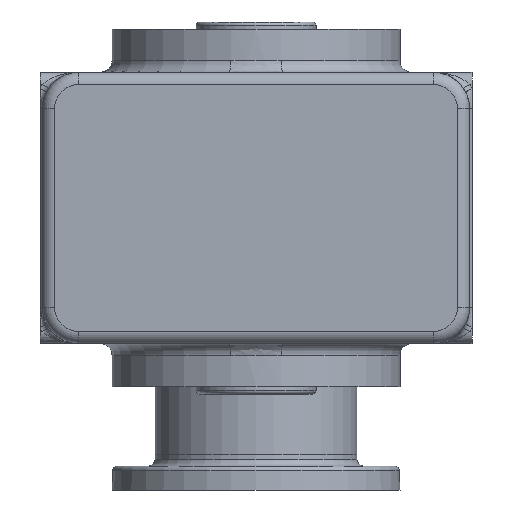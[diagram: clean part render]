
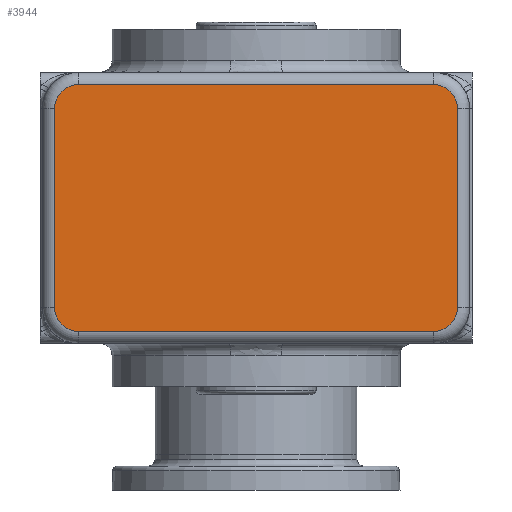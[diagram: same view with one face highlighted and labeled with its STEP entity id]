
A CAD part, front view. The second image highlights one B-rep face of the part: STEP entity #3944.
In plain terms, the highlighted planar face has unit normal (0, -1, 0).
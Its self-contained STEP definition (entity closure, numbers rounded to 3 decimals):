
#3932 = VERTEX_POINT ( 'NONE', #15787 ) ;
#3933 = ORIENTED_EDGE ( 'NONE', *, *, #4009, .T. ) ;
#3934 = VERTEX_POINT ( 'NONE', #15786 ) ;
#3935 = EDGE_CURVE ( 'NONE', #3939, #3937, #15785, .T. ) ;
#3936 = ORIENTED_EDGE ( 'NONE', *, *, #3935, .T. ) ;
#3937 = VERTEX_POINT ( 'NONE', #15781 ) ;
#3938 = ORIENTED_EDGE ( 'NONE', *, *, #3941, .T. ) ;
#3939 = VERTEX_POINT ( 'NONE', #15780 ) ;
#3940 = VERTEX_POINT ( 'NONE', #15779 ) ;
#3941 = EDGE_CURVE ( 'NONE', #3940, #3932, #15778, .T. ) ;
#3944 = ADVANCED_FACE ( 'NONE', ( #15773 ), #15772, .T. ) ;
#3945 = EDGE_LOOP ( 'NONE', ( #3938, #4010, #3936, #3933, #4006, #4004, #4003, #3997 ) ) ;
#3987 = EDGE_CURVE ( 'NONE', #3992, #3940, #15841, .T. ) ;
#3990 = EDGE_CURVE ( 'NONE', #4002, #3992, #15904, .T. ) ;
#3992 = VERTEX_POINT ( 'NONE', #15895 ) ;
#3997 = ORIENTED_EDGE ( 'NONE', *, *, #3987, .T. ) ;
#4002 = VERTEX_POINT ( 'NONE', #15875 ) ;
#4003 = ORIENTED_EDGE ( 'NONE', *, *, #3990, .T. ) ;
#4004 = ORIENTED_EDGE ( 'NONE', *, *, #4005, .T. ) ;
#4005 = EDGE_CURVE ( 'NONE', #4008, #4002, #15872, .T. ) ;
#4006 = ORIENTED_EDGE ( 'NONE', *, *, #4007, .T. ) ;
#4007 = EDGE_CURVE ( 'NONE', #3934, #4008, #15940, .T. ) ;
#4008 = VERTEX_POINT ( 'NONE', #15936 ) ;
#4009 = EDGE_CURVE ( 'NONE', #3937, #3934, #15935, .T. ) ;
#4010 = ORIENTED_EDGE ( 'NONE', *, *, #4011, .T. ) ;
#4011 = EDGE_CURVE ( 'NONE', #3932, #3939, #15930, .T. ) ;
#15615 = CARTESIAN_POINT ( 'NONE',  ( -74., -80., 15. ) ) ;
#15767 = DIRECTION ( 'NONE',  ( 0., 0., -1. ) ) ;
#15769 = DIRECTION ( 'NONE',  ( 0., -1., 0. ) ) ;
#15770 = CARTESIAN_POINT ( 'NONE',  ( -74., -80., 15. ) ) ;
#15771 = AXIS2_PLACEMENT_3D ( 'NONE', #15770, #15769, #15767 ) ;
#15772 = PLANE ( 'NONE',  #15771 ) ;
#15773 = FACE_OUTER_BOUND ( 'NONE', #3945, .T. ) ;
#15775 = DIRECTION ( 'NONE',  ( 0., 0., 1. ) ) ;
#15776 = VECTOR ( 'NONE', #15775, 1000. ) ;
#15777 = CARTESIAN_POINT ( 'NONE',  ( 83.904, -80., 98. ) ) ;
#15778 = LINE ( 'NONE', #15777, #15776 ) ;
#15779 = CARTESIAN_POINT ( 'NONE',  ( 83.904, -80., 15. ) ) ;
#15780 = CARTESIAN_POINT ( 'NONE',  ( 74., -80., 107.904 ) ) ;
#15781 = CARTESIAN_POINT ( 'NONE',  ( -74., -80., 107.904 ) ) ;
#15782 = DIRECTION ( 'NONE',  ( -1., 0., 0. ) ) ;
#15783 = VECTOR ( 'NONE', #15782, 1000. ) ;
#15784 = CARTESIAN_POINT ( 'NONE',  ( -74., -80., 107.904 ) ) ;
#15785 = LINE ( 'NONE', #15784, #15783 ) ;
#15786 = CARTESIAN_POINT ( 'NONE',  ( -83.904, -80., 98. ) ) ;
#15787 = CARTESIAN_POINT ( 'NONE',  ( 83.904, -80., 98. ) ) ;
#15839 = CARTESIAN_POINT ( 'NONE',  ( 74., -80., 15. ) ) ;
#15840 = AXIS2_PLACEMENT_3D ( 'NONE', #15839, #15906, #15905 ) ;
#15841 = CIRCLE ( 'NONE', #15840, 9.904 ) ;
#15871 = AXIS2_PLACEMENT_3D ( 'NONE', #15615, #15942, #15941 ) ;
#15872 = CIRCLE ( 'NONE', #15871, 9.904 ) ;
#15875 = CARTESIAN_POINT ( 'NONE',  ( -74., -80., 5.096 ) ) ;
#15895 = CARTESIAN_POINT ( 'NONE',  ( 74., -80., 5.096 ) ) ;
#15901 = DIRECTION ( 'NONE',  ( 1., 0., 0. ) ) ;
#15902 = VECTOR ( 'NONE', #15901, 1000. ) ;
#15903 = CARTESIAN_POINT ( 'NONE',  ( 74., -80., 5.096 ) ) ;
#15904 = LINE ( 'NONE', #15903, #15902 ) ;
#15905 = DIRECTION ( 'NONE',  ( 0., 0., -1. ) ) ;
#15906 = DIRECTION ( 'NONE',  ( 0., -1., 0. ) ) ;
#15926 = DIRECTION ( 'NONE',  ( 0., 0., -1. ) ) ;
#15927 = DIRECTION ( 'NONE',  ( 0., -1., 0. ) ) ;
#15928 = CARTESIAN_POINT ( 'NONE',  ( 74., -80., 98. ) ) ;
#15929 = AXIS2_PLACEMENT_3D ( 'NONE', #15928, #15927, #15926 ) ;
#15930 = CIRCLE ( 'NONE', #15929, 9.904 ) ;
#15931 = DIRECTION ( 'NONE',  ( 0., 0., -1. ) ) ;
#15932 = DIRECTION ( 'NONE',  ( 0., -1., 0. ) ) ;
#15933 = CARTESIAN_POINT ( 'NONE',  ( -74., -80., 98. ) ) ;
#15934 = AXIS2_PLACEMENT_3D ( 'NONE', #15933, #15932, #15931 ) ;
#15935 = CIRCLE ( 'NONE', #15934, 9.904 ) ;
#15936 = CARTESIAN_POINT ( 'NONE',  ( -83.904, -80., 15. ) ) ;
#15937 = DIRECTION ( 'NONE',  ( 0., 0., -1. ) ) ;
#15938 = VECTOR ( 'NONE', #15937, 1000. ) ;
#15939 = CARTESIAN_POINT ( 'NONE',  ( -83.904, -80., 15. ) ) ;
#15940 = LINE ( 'NONE', #15939, #15938 ) ;
#15941 = DIRECTION ( 'NONE',  ( 0., 0., -1. ) ) ;
#15942 = DIRECTION ( 'NONE',  ( 0., -1., 0. ) ) ;
